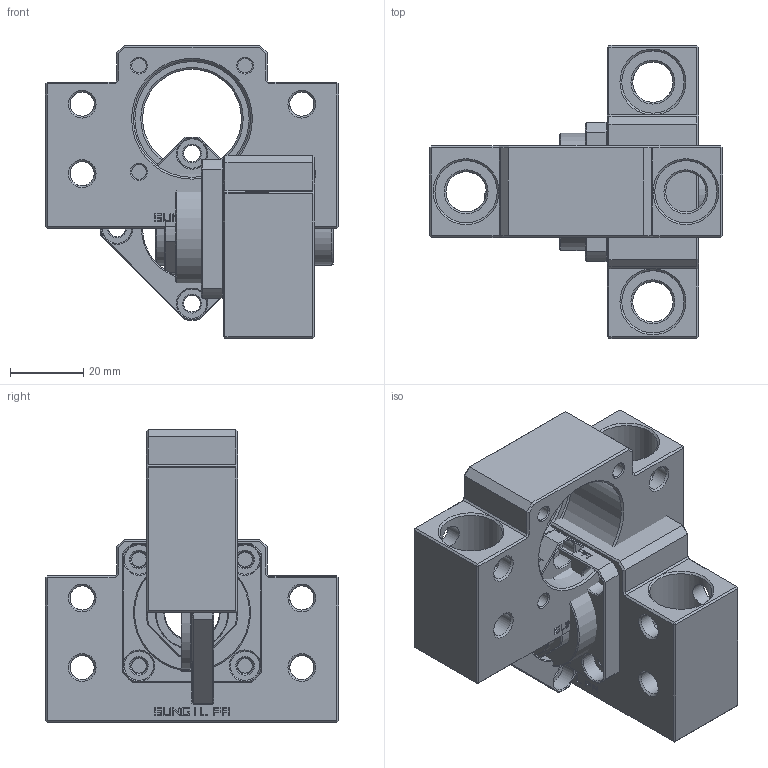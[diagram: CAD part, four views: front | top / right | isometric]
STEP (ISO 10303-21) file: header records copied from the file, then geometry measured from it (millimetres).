
FILE_DESCRIPTION( ( 'Unknown' ), '1' );
FILE_NAME( 'D:/3D/憮んお嶸棉/20060119/SAK TYPE/SAK15/SAK15(ASSM).stp', 'Unknown', ( 'Unknown' ), ( 'Unknown' ), 'XStep 1.0', 'Unknown', ' ' );
FILE_SCHEMA( ( 'CONFIG_CONTROL_DESIGN' ) );
Length unit declared in the file: millimetre
Products named in the file (9): Assem1; SAK15(bearing); SAK15(collar); SAK15(housing); SAK15(housinglid); SAK15(locknut); SAK15(seal)
Bounding box: 80 x 80 x 80 mm (x, y, z)
Volume: 158449.9 mm3; surface area: 65690 mm2
Topology: 16 solids, 16 shells, 1424 faces, 3786 edges, 2462 vertices
Faces by surface type: plane 708, cylinder 554, cone 158, torus 2, bspline 2
Full cylindrical faces by diameter (mm): 4 x10, 4.5 x8, 6.6 x16, 8 x8, 11 x4, 15 x10, 17 x4, 20 x6, 21 x2, 27 x6, 32 x8
Entity records: 22352 total; most frequent: CARTESIAN_POINT 4429, DIRECTION 3758, ORIENTED_EDGE 3474, EDGE_CURVE 1737, AXIS2_PLACEMENT_3D 1356, VERTEX_POINT 1181, LINE 1046, VECTOR 1046
